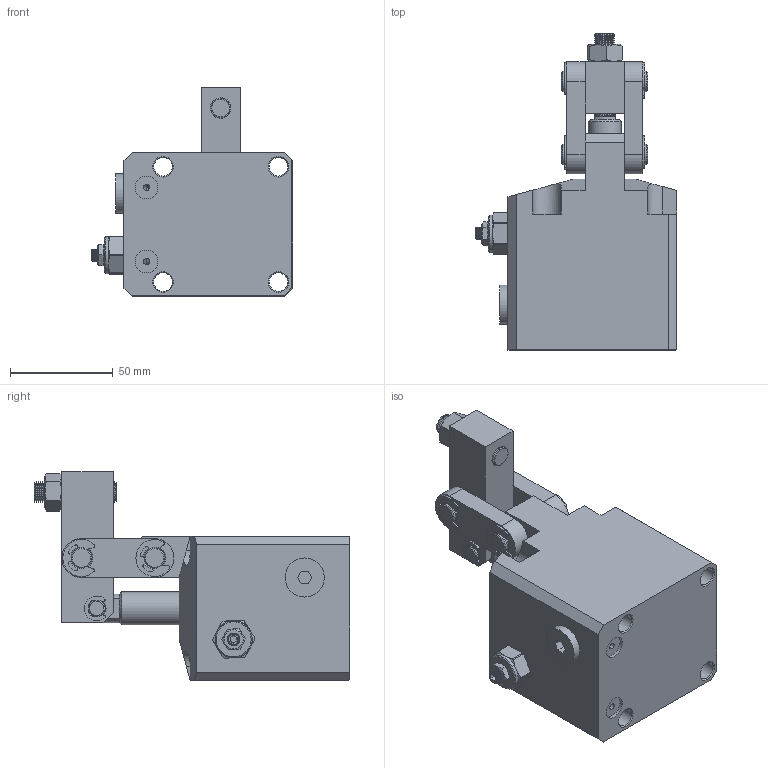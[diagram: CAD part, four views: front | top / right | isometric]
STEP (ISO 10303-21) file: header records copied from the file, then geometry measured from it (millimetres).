
FILE_DESCRIPTION(/* description */ ('STEP AP214'),/* implementation_level */ '2;1');
FILE_NAME(/* name */ 'D:\Vault_2016\Projekty\Clamptek\Hydraulic\CBLU\CBLU-45\STEP\CBLU-45CR.stp',/* time_stamp */ '2021-05-06T12:38:58+02:00',/* author */ ('user'),/* organization */ (''),/* preprocessor_version */ 'ST-DEVELOPER v18.1',/* originating_system */ 'Autodesk Inventor 2021',/* authorisation */ '');
FILE_SCHEMA (('AUTOMOTIVE_DESIGN { 1 0 10303 214 3 1 1 }'));
Products named in the file (13): CBLU-45CR; 45CR±¾Ìå_1; Áã¼þ3_1; Á¬¸Ë; 45Ñ¹°å; ¶ÌÏúÖá; ³¤ÏúÖá; Ð¡µ¯; ´ó¿Û; ÂÝÄ¸; ÂÝË¨M10; CZL20µ÷ËÙ·§; ÄÚÁù½Ç¶ÂÍ·×
îÐÂ1-4
Assembly tree (18 placements, depth 2):
  CBLU-45CR
    45CR±¾Ìå_1
    Áã¼þ3_1
    Á¬¸Ë  x2
    45Ñ¹°å
    ¶ÌÏúÖá
    ³¤ÏúÖá  x2
    Ð¡µ¯  x2
    ´ó¿Û  x4
    ÂÝÄ¸
    ÂÝË¨M10
    CZL20µ÷ËÙ·§
    ÄÚÁù½Ç¶ÂÍ·×
îÐÂ1-4
Bounding box: 97.9 x 153.5 x 101.5 mm (x, y, z)
Volume: 449346.9 mm3; surface area: 94339.9 mm2
Topology: 18 solids, 23 shells, 680 faces, 1790 edges, 1179 vertices
Faces by surface type: cylinder 232, plane 207, cone 141, bspline 88, torus 12
Full cylindrical faces by diameter (mm): 2.5 x3, 3 x3, 6 x14, 6.9 x1, 7 x1, 8 x7, 8.376 x1, 8.5 x1, 8.9 x2, 9 x6, 10 x51, 11 x5, 11.5 x1, 11.9 x1, 13 x1, 16 x3, 16.8 x1, 18 x1, 19 x1, 23.364 x2, 24 x2, 34 x1, 40 x2, 45 x3
Entity records: 51540 total; most frequent: CARTESIAN_POINT 36989, ORIENTED_EDGE 3024, DIRECTION 2790, EDGE_CURVE 1525, AXIS2_PLACEMENT_3D 1080, VERTEX_POINT 1003, EDGE_LOOP 644, LINE 630
